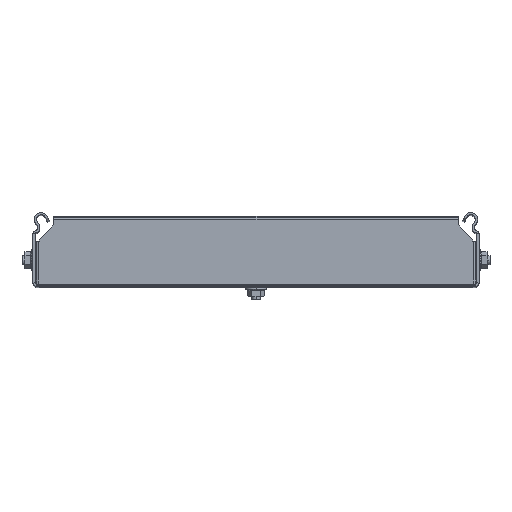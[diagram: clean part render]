
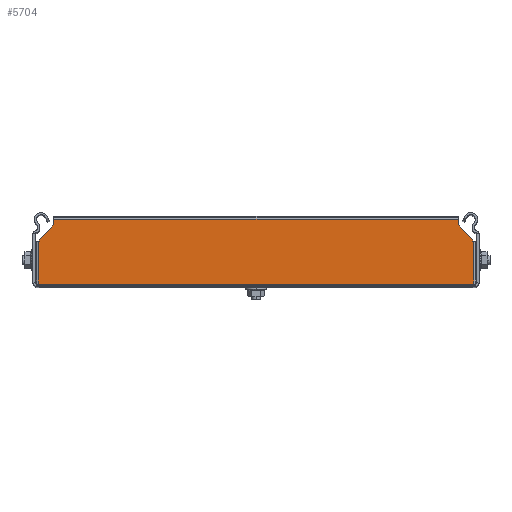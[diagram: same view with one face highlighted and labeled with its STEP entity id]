
A CAD part, top view. The second image highlights one B-rep face of the part: STEP entity #5704.
In plain terms, the highlighted planar face has unit normal (0, 0, 1) as drawn and (0, 0, -1) by its records, which use the part's own axes.
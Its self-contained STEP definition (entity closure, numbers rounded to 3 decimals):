
#17 = EDGE_CURVE ( 'NONE', #896, #1217, #14101, .T. ) ;
#46 = DIRECTION ( 'NONE',  ( 0., 1., 0. ) ) ;
#209 = VERTEX_POINT ( 'NONE', #655 ) ;
#640 = CARTESIAN_POINT ( 'NONE',  ( -45., 1.25, 0. ) ) ;
#653 = LINE ( 'NONE', #3738, #10241 ) ;
#655 = CARTESIAN_POINT ( 'NONE',  ( 292.35, 30.47, 0. ) ) ;
#737 = VECTOR ( 'NONE', #7315, 1000. ) ;
#818 = ORIENTED_EDGE ( 'NONE', *, *, #3224, .F. ) ;
#823 = DIRECTION ( 'NONE',  ( -1., 0., 0. ) ) ;
#896 = VERTEX_POINT ( 'NONE', #15127 ) ;
#906 = DIRECTION ( 'NONE',  ( 0., -1., 0. ) ) ;
#921 = EDGE_CURVE ( 'NONE', #6562, #7567, #11409, .T. ) ;
#1116 = EDGE_CURVE ( 'NONE', #209, #12281, #5527, .T. ) ;
#1132 = VECTOR ( 'NONE', #10985, 1000. ) ;
#1217 = VERTEX_POINT ( 'NONE', #8686 ) ;
#1253 = VECTOR ( 'NONE', #906, 1000. ) ;
#1272 = LINE ( 'NONE', #5077, #13727 ) ;
#1391 = DIRECTION ( 'NONE',  ( 0., -1., 0. ) ) ;
#1504 = LINE ( 'NONE', #6149, #1132 ) ;
#1646 = CARTESIAN_POINT ( 'NONE',  ( 292.35, 1.25, 0. ) ) ;
#1672 = CARTESIAN_POINT ( 'NONE',  ( 0., 1.25, 0. ) ) ;
#1725 = DIRECTION ( 'NONE',  ( 0., 0., -1. ) ) ;
#1962 = VERTEX_POINT ( 'NONE', #3590 ) ;
#2157 = CARTESIAN_POINT ( 'NONE',  ( 0., 45.66, 0. ) ) ;
#2486 = EDGE_CURVE ( 'NONE', #1962, #10403, #3481, .T. ) ;
#2515 = LINE ( 'NONE', #640, #8522 ) ;
#2524 = EDGE_CURVE ( 'NONE', #7567, #2612, #14078, .T. ) ;
#2612 = VERTEX_POINT ( 'NONE', #7981 ) ;
#3068 = ORIENTED_EDGE ( 'NONE', *, *, #10370, .F. ) ;
#3224 = EDGE_CURVE ( 'NONE', #10949, #896, #2515, .T. ) ;
#3441 = CARTESIAN_POINT ( 'NONE',  ( 291.91, 1.06, 0. ) ) ;
#3481 = LINE ( 'NONE', #9417, #15184 ) ;
#3590 = CARTESIAN_POINT ( 'NONE',  ( 281.91, 41.72, 0. ) ) ;
#3738 = CARTESIAN_POINT ( 'NONE',  ( 0., 31.72, 0. ) ) ;
#3887 = ORIENTED_EDGE ( 'NONE', *, *, #6617, .F. ) ;
#4144 = CARTESIAN_POINT ( 'NONE',  ( 291.91, 31.72, 0. ) ) ;
#4234 = CARTESIAN_POINT ( 'NONE',  ( 10., 41.72, 0. ) ) ;
#4293 = CARTESIAN_POINT ( 'NONE',  ( 291.91, 30.47, 0. ) ) ;
#4609 = CARTESIAN_POINT ( 'NONE',  ( 0., 1.06, 0. ) ) ;
#4778 = VECTOR ( 'NONE', #6814, 1000. ) ;
#4891 = ORIENTED_EDGE ( 'NONE', *, *, #13402, .T. ) ;
#4917 = ORIENTED_EDGE ( 'NONE', *, *, #2486, .F. ) ;
#5077 = CARTESIAN_POINT ( 'NONE',  ( 0., 30.47, 0. ) ) ;
#5143 = CARTESIAN_POINT ( 'NONE',  ( 0., 30.47, 0. ) ) ;
#5197 = ORIENTED_EDGE ( 'NONE', *, *, #1116, .F. ) ;
#5299 = VECTOR ( 'NONE', #12883, 1000. ) ;
#5429 = DIRECTION ( 'NONE',  ( 0., -1., 0. ) ) ;
#5527 = LINE ( 'NONE', #13898, #11207 ) ;
#5528 = AXIS2_PLACEMENT_3D ( 'NONE', #1672, #1725, #10130 ) ;
#5584 = EDGE_CURVE ( 'NONE', #8601, #1962, #13775, .T. ) ;
#5663 = CARTESIAN_POINT ( 'NONE',  ( 291.91, 1.25, 0. ) ) ;
#5704 = ADVANCED_FACE ( 'NONE', ( #12237 ), #8901, .T. ) ;
#5707 = DIRECTION ( 'NONE',  ( 1., 0., 0. ) ) ;
#5822 = CARTESIAN_POINT ( 'NONE',  ( 0., 1.25, 0. ) ) ;
#5979 = EDGE_CURVE ( 'NONE', #12871, #8769, #12040, .T. ) ;
#6149 = CARTESIAN_POINT ( 'NONE',  ( 336.91, 1.25, 0. ) ) ;
#6562 = VERTEX_POINT ( 'NONE', #14723 ) ;
#6617 = EDGE_CURVE ( 'NONE', #8514, #13965, #1272, .T. ) ;
#6636 = EDGE_CURVE ( 'NONE', #209, #11417, #10498, .T. ) ;
#6637 = EDGE_LOOP ( 'NONE', ( #7577, #8549, #818, #8216, #3887, #15228, #12821, #13424, #4891, #4917, #12909, #3068, #5197, #11997, #7044, #12377 ) ) ;
#6806 = CARTESIAN_POINT ( 'NONE',  ( 291.91, 30.47, 0. ) ) ;
#6814 = DIRECTION ( 'NONE',  ( -0.707, -0.707, 0. ) ) ;
#7044 = ORIENTED_EDGE ( 'NONE', *, *, #12443, .F. ) ;
#7144 = VECTOR ( 'NONE', #13099, 1000. ) ;
#7315 = DIRECTION ( 'NONE',  ( 0., -1., 0. ) ) ;
#7320 = LINE ( 'NONE', #2157, #13391 ) ;
#7567 = VERTEX_POINT ( 'NONE', #4234 ) ;
#7577 = ORIENTED_EDGE ( 'NONE', *, *, #12036, .F. ) ;
#7614 = DIRECTION ( 'NONE',  ( 0., -1., 0. ) ) ;
#7688 = VECTOR ( 'NONE', #11091, 1000. ) ;
#7981 = CARTESIAN_POINT ( 'NONE',  ( 0., 31.72, 0. ) ) ;
#8108 = CARTESIAN_POINT ( 'NONE',  ( 292.35, 1.25, 0. ) ) ;
#8216 = ORIENTED_EDGE ( 'NONE', *, *, #13035, .F. ) ;
#8427 = VECTOR ( 'NONE', #46, 1000. ) ;
#8514 = VERTEX_POINT ( 'NONE', #5143 ) ;
#8518 = LINE ( 'NONE', #4293, #5299 ) ;
#8522 = VECTOR ( 'NONE', #10301, 1000. ) ;
#8549 = ORIENTED_EDGE ( 'NONE', *, *, #17, .F. ) ;
#8566 = VECTOR ( 'NONE', #5429, 1000. ) ;
#8601 = VERTEX_POINT ( 'NONE', #4144 ) ;
#8686 = CARTESIAN_POINT ( 'NONE',  ( 0., 1.06, 0. ) ) ;
#8769 = VERTEX_POINT ( 'NONE', #5663 ) ;
#8901 = PLANE ( 'NONE',  #5528 ) ;
#9185 = LINE ( 'NONE', #14587, #737 ) ;
#9361 = CARTESIAN_POINT ( 'NONE',  ( 281.91, 45.66, 0. ) ) ;
#9417 = CARTESIAN_POINT ( 'NONE',  ( 281.91, 75.47, 0. ) ) ;
#9512 = CARTESIAN_POINT ( 'NONE',  ( -0.44, 1.25, 0. ) ) ;
#9873 = CARTESIAN_POINT ( 'NONE',  ( 281.91, 41.72, 0. ) ) ;
#10044 = EDGE_CURVE ( 'NONE', #2612, #8514, #653, .T. ) ;
#10130 = DIRECTION ( 'NONE',  ( -1., 0., 0. ) ) ;
#10241 = VECTOR ( 'NONE', #1391, 1000. ) ;
#10256 = CARTESIAN_POINT ( 'NONE',  ( 10., 41.72, 0. ) ) ;
#10301 = DIRECTION ( 'NONE',  ( 1., 0., 0. ) ) ;
#10370 = EDGE_CURVE ( 'NONE', #12281, #8601, #8518, .T. ) ;
#10403 = VERTEX_POINT ( 'NONE', #9361 ) ;
#10458 = CARTESIAN_POINT ( 'NONE',  ( -0.44, 30.47, 0. ) ) ;
#10498 = LINE ( 'NONE', #1646, #13354 ) ;
#10949 = VERTEX_POINT ( 'NONE', #9512 ) ;
#10985 = DIRECTION ( 'NONE',  ( 1., 0., 0. ) ) ;
#11091 = DIRECTION ( 'NONE',  ( -0.707, 0.707, 0. ) ) ;
#11207 = VECTOR ( 'NONE', #823, 1000. ) ;
#11409 = LINE ( 'NONE', #10256, #8566 ) ;
#11417 = VERTEX_POINT ( 'NONE', #8108 ) ;
#11807 = DIRECTION ( 'NONE',  ( 0., 1., 0. ) ) ;
#11997 = ORIENTED_EDGE ( 'NONE', *, *, #6636, .T. ) ;
#12036 = EDGE_CURVE ( 'NONE', #1217, #12871, #13233, .T. ) ;
#12040 = LINE ( 'NONE', #14491, #8427 ) ;
#12237 = FACE_OUTER_BOUND ( 'NONE', #6637, .T. ) ;
#12281 = VERTEX_POINT ( 'NONE', #6806 ) ;
#12377 = ORIENTED_EDGE ( 'NONE', *, *, #5979, .F. ) ;
#12443 = EDGE_CURVE ( 'NONE', #8769, #11417, #1504, .T. ) ;
#12821 = ORIENTED_EDGE ( 'NONE', *, *, #2524, .F. ) ;
#12871 = VERTEX_POINT ( 'NONE', #3441 ) ;
#12883 = DIRECTION ( 'NONE',  ( 0., 1., 0. ) ) ;
#12909 = ORIENTED_EDGE ( 'NONE', *, *, #5584, .F. ) ;
#13035 = EDGE_CURVE ( 'NONE', #13965, #10949, #9185, .T. ) ;
#13096 = CARTESIAN_POINT ( 'NONE',  ( 0., 31.72, 0. ) ) ;
#13099 = DIRECTION ( 'NONE',  ( 1., 0., 0. ) ) ;
#13233 = LINE ( 'NONE', #4609, #7144 ) ;
#13354 = VECTOR ( 'NONE', #7614, 1000. ) ;
#13391 = VECTOR ( 'NONE', #5707, 1000. ) ;
#13402 = EDGE_CURVE ( 'NONE', #6562, #10403, #7320, .T. ) ;
#13424 = ORIENTED_EDGE ( 'NONE', *, *, #921, .F. ) ;
#13727 = VECTOR ( 'NONE', #14824, 1000. ) ;
#13775 = LINE ( 'NONE', #9873, #7688 ) ;
#13898 = CARTESIAN_POINT ( 'NONE',  ( 291.91, 30.47, 0. ) ) ;
#13965 = VERTEX_POINT ( 'NONE', #10458 ) ;
#14078 = LINE ( 'NONE', #13096, #4778 ) ;
#14101 = LINE ( 'NONE', #5822, #1253 ) ;
#14491 = CARTESIAN_POINT ( 'NONE',  ( 291.91, 0., 0. ) ) ;
#14587 = CARTESIAN_POINT ( 'NONE',  ( -0.44, 1.25, 0. ) ) ;
#14723 = CARTESIAN_POINT ( 'NONE',  ( 10., 45.66, 0. ) ) ;
#14824 = DIRECTION ( 'NONE',  ( -1., 0., 0. ) ) ;
#15127 = CARTESIAN_POINT ( 'NONE',  ( 0., 1.25, 0. ) ) ;
#15184 = VECTOR ( 'NONE', #11807, 1000. ) ;
#15228 = ORIENTED_EDGE ( 'NONE', *, *, #10044, .F. ) ;
